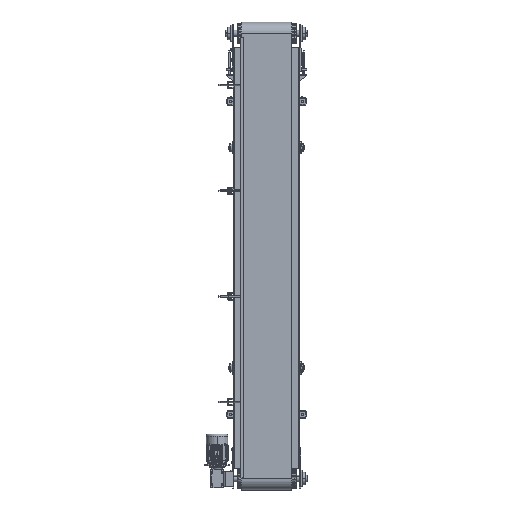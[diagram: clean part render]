
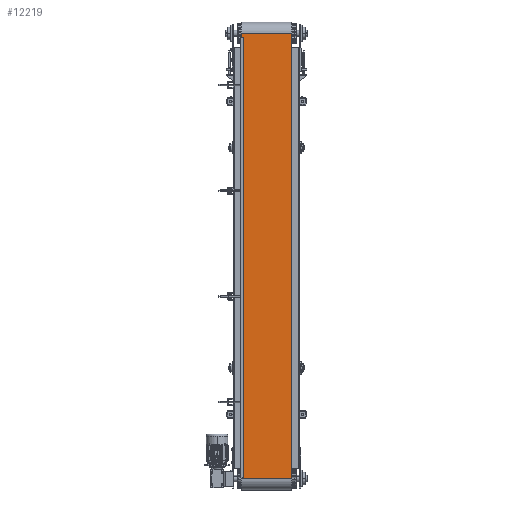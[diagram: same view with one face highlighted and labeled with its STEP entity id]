
A CAD part, front view. The second image highlights one B-rep face of the part: STEP entity #12219.
In plain terms, the highlighted planar face has unit normal (0, -1, 0).
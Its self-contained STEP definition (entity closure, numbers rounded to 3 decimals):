
#8530=PLANE('',#77155);
#12219=ADVANCED_FACE('',(#17059),#8530,.F.);
#17059=FACE_OUTER_BOUND('',#21364,.T.);
#21364=EDGE_LOOP('',(#51539,#51540,#51541,#51542));
#26709=LINE('',#124766,#32376);
#26712=LINE('',#124777,#32379);
#26713=LINE('',#124780,#32380);
#26714=LINE('',#124781,#32381);
#32376=VECTOR('',#95290,1.);
#32379=VECTOR('',#95301,1.);
#32380=VECTOR('',#95302,1.);
#32381=VECTOR('',#95303,1.);
#51539=ORIENTED_EDGE('',*,*,#67916,.F.);
#51540=ORIENTED_EDGE('',*,*,#67917,.F.);
#51541=ORIENTED_EDGE('',*,*,#67911,.F.);
#51542=ORIENTED_EDGE('',*,*,#67918,.F.);
#58249=VERTEX_POINT('',#124761);
#58251=VERTEX_POINT('',#124765);
#58256=VERTEX_POINT('',#124778);
#58257=VERTEX_POINT('',#124779);
#67911=EDGE_CURVE('',#58251,#58249,#26709,.T.);
#67916=EDGE_CURVE('',#58256,#58257,#26712,.T.);
#67917=EDGE_CURVE('',#58249,#58256,#26713,.T.);
#67918=EDGE_CURVE('',#58257,#58251,#26714,.T.);
#77155=AXIS2_PLACEMENT_3D('',#124782,#95304,#95305);
#95290=DIRECTION('',(0.,0.,1.));
#95301=DIRECTION('',(0.,0.,-1.));
#95302=DIRECTION('',(1.,0.,0.));
#95303=DIRECTION('',(-1.,0.,0.));
#95304=DIRECTION('',(0.,1.,0.));
#95305=DIRECTION('',(1.,0.,0.));
#124761=CARTESIAN_POINT('',(-1770.,-90.698,200.));
#124765=CARTESIAN_POINT('',(-1770.,-90.698,-200.));
#124766=CARTESIAN_POINT('',(-1770.,-90.698,200.));
#124777=CARTESIAN_POINT('',(1770.,-90.698,200.));
#124778=CARTESIAN_POINT('',(1770.,-90.698,200.));
#124779=CARTESIAN_POINT('',(1770.,-90.698,-200.));
#124780=CARTESIAN_POINT('',(1770.,-90.698,200.));
#124781=CARTESIAN_POINT('',(1770.,-90.698,-200.));
#124782=CARTESIAN_POINT('',(1770.,-90.698,200.));
